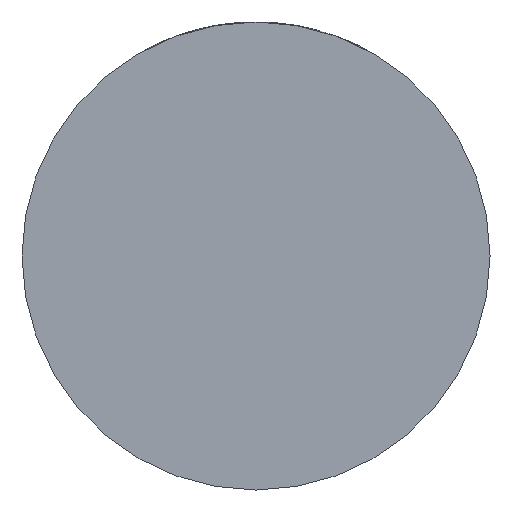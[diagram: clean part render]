
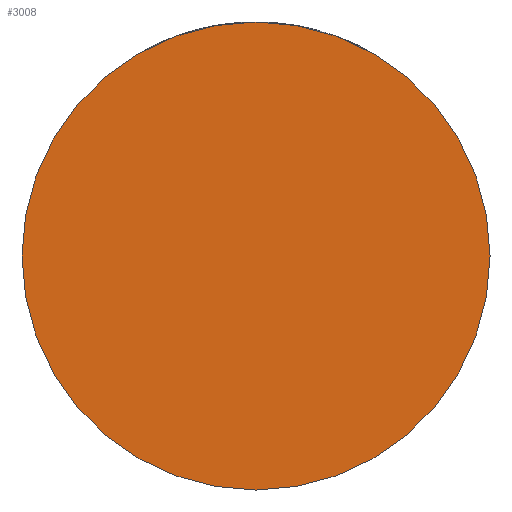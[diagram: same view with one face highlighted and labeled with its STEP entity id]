
A CAD part, front view. The second image highlights one B-rep face of the part: STEP entity #3008.
In plain terms, the highlighted planar face has unit normal (0, -1, 0).
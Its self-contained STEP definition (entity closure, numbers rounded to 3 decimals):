
#25 = DIRECTION ( 'NONE',  ( 0., -1., 0. ) ) ;
#297 = DIRECTION ( 'NONE',  ( 1., 0., 0. ) ) ;
#400 = AXIS2_PLACEMENT_3D ( 'NONE', #4091, #1038, #297 ) ;
#891 = ORIENTED_EDGE ( 'NONE', *, *, #2227, .T. ) ;
#1002 = VERTEX_POINT ( 'NONE', #3945 ) ;
#1038 = DIRECTION ( 'NONE',  ( 0., -1., 0. ) ) ;
#1328 = CIRCLE ( 'NONE', #3351, 39. ) ;
#1400 = DIRECTION ( 'NONE',  ( 1., 0., 0. ) ) ;
#1833 = EDGE_LOOP ( 'NONE', ( #3708, #891 ) ) ;
#2227 = EDGE_CURVE ( 'NONE', #2955, #1002, #1328, .T. ) ;
#2348 = EDGE_CURVE ( 'NONE', #1002, #2955, #2699, .T. ) ;
#2536 = DIRECTION ( 'NONE',  ( 0., -1., 0. ) ) ;
#2699 = CIRCLE ( 'NONE', #3716, 39. ) ;
#2955 = VERTEX_POINT ( 'NONE', #3769 ) ;
#3008 = ADVANCED_FACE ( 'NONE', ( #3399 ), #4069, .T. ) ;
#3114 = CARTESIAN_POINT ( 'NONE',  ( 0., -36., 0. ) ) ;
#3155 = DIRECTION ( 'NONE',  ( 1., 0., 0. ) ) ;
#3351 = AXIS2_PLACEMENT_3D ( 'NONE', #3114, #25, #1400 ) ;
#3399 = FACE_OUTER_BOUND ( 'NONE', #1833, .T. ) ;
#3581 = CARTESIAN_POINT ( 'NONE',  ( 0., -36., 0. ) ) ;
#3708 = ORIENTED_EDGE ( 'NONE', *, *, #2348, .T. ) ;
#3716 = AXIS2_PLACEMENT_3D ( 'NONE', #3581, #2536, #3155 ) ;
#3769 = CARTESIAN_POINT ( 'NONE',  ( 39., -36., 0. ) ) ;
#3945 = CARTESIAN_POINT ( 'NONE',  ( -39., -36., 0. ) ) ;
#4069 = PLANE ( 'NONE',  #400 ) ;
#4091 = CARTESIAN_POINT ( 'NONE',  ( 0., -36., 0. ) ) ;
